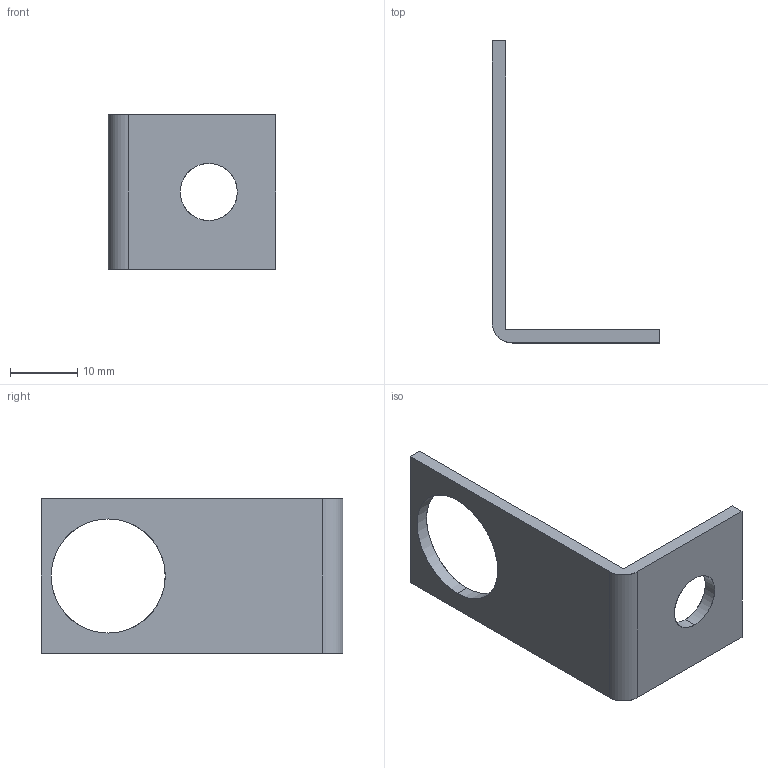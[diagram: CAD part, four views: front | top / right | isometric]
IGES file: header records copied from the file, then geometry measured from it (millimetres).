
Start section: SolidWorks IGES file using analytic representation for surfaces
Global section: file name: G:\Silvent\Ritningar\Övrigt\IGES\Silvent 3302.IGS; native system: SolidWorks 2006 by SolidWorks Corporation; preprocessor: SolidWorks 2006 by SolidWorks Corporation; author: SilvRaTi; date: 080901.112504; units: millimetre
Bounding box: 25 x 45 x 23 mm (x, y, z)
Surface area: 3051.3 mm2 (no closed solid volume)
Topology: 0 solids, 0 shells, 13 faces, 200 edges, 200 vertices
Faces by surface type: bspline 8, revolution 5
